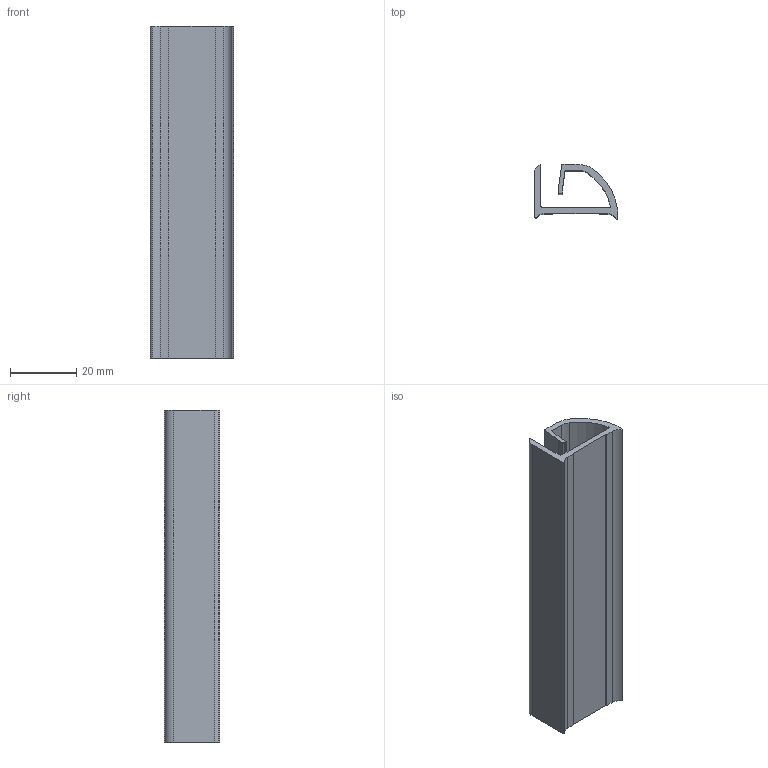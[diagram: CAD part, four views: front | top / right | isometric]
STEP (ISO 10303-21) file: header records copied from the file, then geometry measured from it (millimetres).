
FILE_DESCRIPTION (( 'STEP AP203' ), '1' );
FILE_NAME ('013.025.016.STEP', '2020-07-22T09:09:19', ( '' ), ( '' ), 'SwSTEP 2.0', 'SolidWorks 2018', '' );
FILE_SCHEMA (( 'CONFIG_CONTROL_DESIGN' ));
Length unit declared in the file: millimetre
Products named in the file (1): 013.025.016
Bounding box: 25 x 16.65 x 100 mm (x, y, z)
Volume: 12630.7 mm3; surface area: 14352.6 mm2
Topology: 1 solids, 1 shells, 33 faces, 93 edges, 62 vertices
Faces by surface type: plane 18, cylinder 13, bspline 2
Entity records: 1162 total; most frequent: CARTESIAN_POINT 215, ORIENTED_EDGE 186, DIRECTION 179, EDGE_CURVE 93, VECTOR 63, LINE 63, VERTEX_POINT 62, AXIS2_PLACEMENT_3D 58
